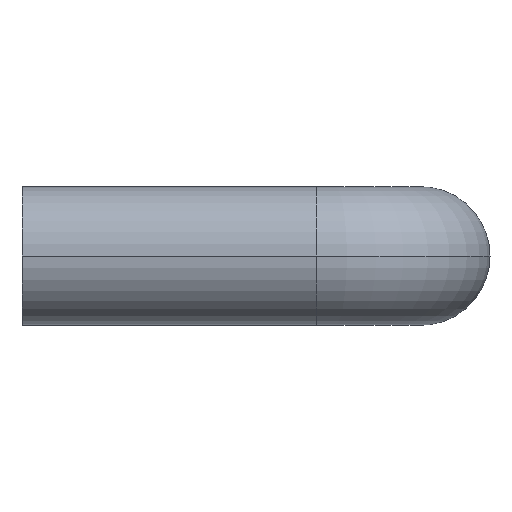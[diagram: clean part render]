
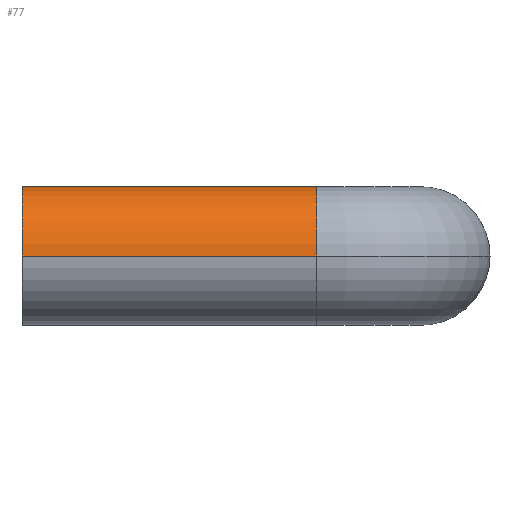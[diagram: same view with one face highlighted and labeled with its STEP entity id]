
A CAD part, left-side view. The second image highlights one B-rep face of the part: STEP entity #77.
In plain terms, the highlighted cylindrical face has radius 4 mm (diameter 8 mm), a partial arc.
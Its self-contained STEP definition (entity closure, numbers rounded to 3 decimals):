
#77 = ADVANCED_FACE( '', ( #98 ), #99, .T. );
#98 = FACE_OUTER_BOUND( '', #136, .T. );
#99 = CYLINDRICAL_SURFACE( '', #137, 4. );
#136 = EDGE_LOOP( '', ( #184, #185, #186, #187 ) );
#137 = AXIS2_PLACEMENT_3D( '', #188, #189, #190 );
#184 = ORIENTED_EDGE( '', *, *, #300, .F. );
#185 = ORIENTED_EDGE( '', *, *, #301, .F. );
#186 = ORIENTED_EDGE( '', *, *, #302, .F. );
#187 = ORIENTED_EDGE( '', *, *, #295, .T. );
#188 = CARTESIAN_POINT( '', ( 0., 0., 0. ) );
#189 = DIRECTION( '', ( 0., 1., 0. ) );
#190 = DIRECTION( '', ( 1., 0., 0. ) );
#295 = EDGE_CURVE( '', #327, #331, #333, .T. );
#300 = EDGE_CURVE( '', #342, #331, #343, .T. );
#301 = EDGE_CURVE( '', #344, #342, #345, .T. );
#302 = EDGE_CURVE( '', #327, #344, #346, .T. );
#327 = VERTEX_POINT( '', #381 );
#331 = VERTEX_POINT( '', #385 );
#333 = CIRCLE( '', #387, 4. );
#342 = VERTEX_POINT( '', #396 );
#343 = LINE( '', #397, #398 );
#344 = VERTEX_POINT( '', #399 );
#345 = CIRCLE( '', #400, 4. );
#346 = LINE( '', #401, #402 );
#381 = CARTESIAN_POINT( '', ( -4., -17., 0. ) );
#385 = CARTESIAN_POINT( '', ( 4., -17., 0. ) );
#387 = AXIS2_PLACEMENT_3D( '', #453, #454, #455 );
#396 = CARTESIAN_POINT( '', ( 4., 0., 0. ) );
#397 = CARTESIAN_POINT( '', ( 4., 0., 0. ) );
#398 = VECTOR( '', #468, 1. );
#399 = CARTESIAN_POINT( '', ( -4., 0., 0. ) );
#400 = AXIS2_PLACEMENT_3D( '', #469, #470, #471 );
#401 = CARTESIAN_POINT( '', ( -4., 0., 0. ) );
#402 = VECTOR( '', #472, 1. );
#453 = CARTESIAN_POINT( '', ( 0., -17., 0. ) );
#454 = DIRECTION( '', ( 0., 1., 0. ) );
#455 = DIRECTION( '', ( 1., 0., 0. ) );
#468 = DIRECTION( '', ( 0., -1., 0. ) );
#469 = CARTESIAN_POINT( '', ( 0., 0., 0. ) );
#470 = DIRECTION( '', ( 0., 1., 0. ) );
#471 = DIRECTION( '', ( 1., 0., 0. ) );
#472 = DIRECTION( '', ( 0., 1., 0. ) );
